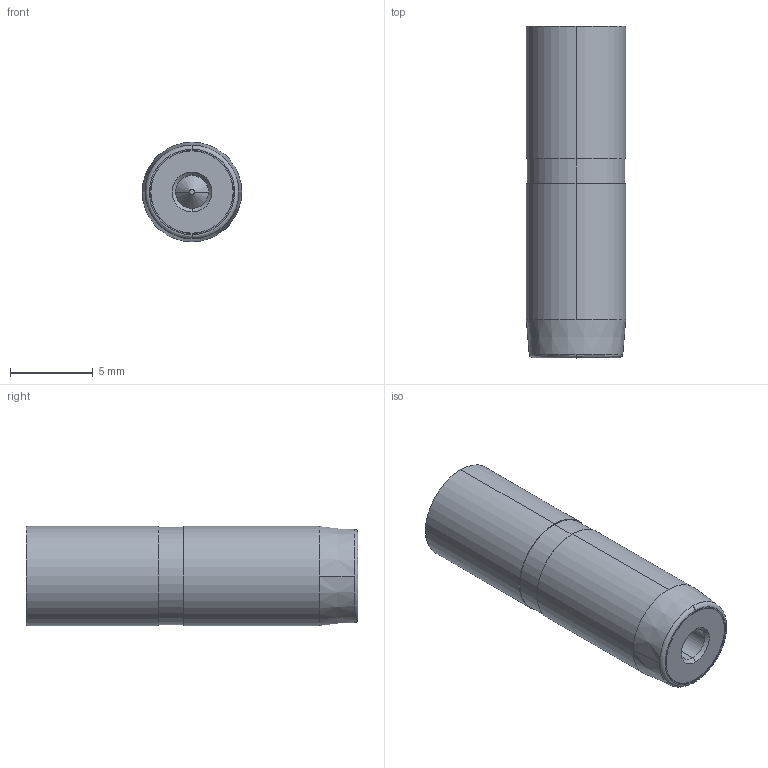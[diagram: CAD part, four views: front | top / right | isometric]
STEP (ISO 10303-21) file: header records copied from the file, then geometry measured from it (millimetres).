
FILE_DESCRIPTION (( 'STEP AP214' ), '1' );
FILE_NAME ('FP063212-16.STEP', '2014-01-30T11:45:08', ( '' ), ( '' ), 'SwSTEP 2.0', 'SolidWorks 2013', '' );
FILE_SCHEMA (( 'AUTOMOTIVE_DESIGN' ));
Length unit declared in the file: millimetre
Products named in the file (6): FA 063200-2 - comprimido; FP063212-16; FA 063200-1; IA 321716; 9FA 063212; FA 063200-3
Assembly tree (5 placements, depth 2):
  FP063212-16
    FA 063200-2 - comprimido
    FA 063200-3
    9FA 063212
    IA 321716
    FA 063200-1
Bounding box: 6 x 20 x 6 mm (x, y, z)
Volume: 463.3 mm3; surface area: 1132.1 mm2
Topology: 5 solids, 5 shells, 338 faces, 860 edges, 564 vertices
Faces by surface type: plane 152, cylinder 150, cone 24, bspline 12
Entity records: 16081 total; most frequent: CARTESIAN_POINT 3832, DIRECTION 1822, ORIENTED_EDGE 1720, EDGE_CURVE 860, AXIS2_PLACEMENT_3D 676, VERTEX_POINT 564, VECTOR 470, LINE 470
